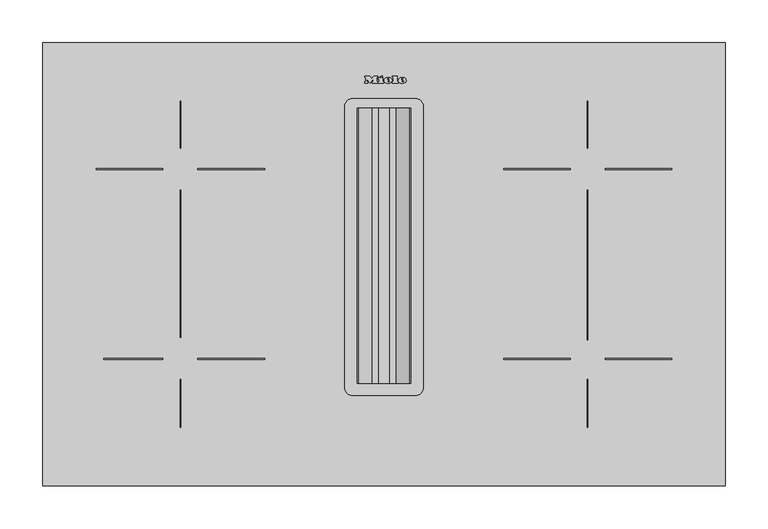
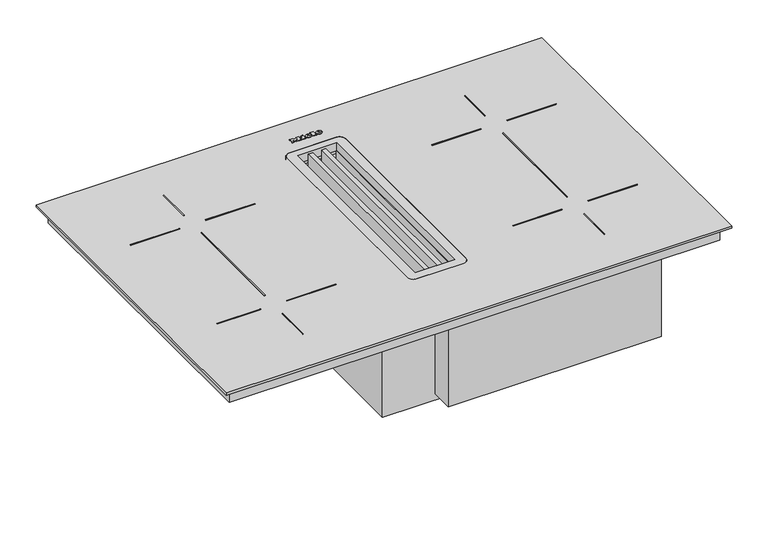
"""IFC4 building model written with IfcOpenShell, lengths in millimetres: proxy geometry, 12246270_GB_KMDA7473FL-A : 26747378_GB_12246270_KMDA7473FL-A."""

from ifc_helpers import new_model, si_unit, point, frame, frame_2d, origin, origin_with_axes, place, context, project, spatial, polyline, circle_curve, ellipse_curve, trimmed, segment, composite_curve, outline, extrude, faceted_brep, source, transform, mapped, element, save
from ifc_brep_helpers import plane_surface, cylinder_surface, revolved_surface, extruded_surface, advanced_brep


def specialty_equipment_909bfc48(model_context):
    return source(origin(), model_context, "Body", "SolidModel", [
        advanced_brep(
        [(20.8243124, 474.5406203, 5.0), (20.8243124, 475.3486203, 5.0), (26.1763124, 475.3486203, 5.0), (16.8643124, 475.3486203, 5.0), (19.0643124, 472.6446203, 5.0), (26.0403124, 474.5406203, 5.0), (23.6243124, 474.5406203, 5.0), (21.7203124, 473.6446203, 5.0), (20.8243124, 476.3726203, 5.0), (20.8243124, 477.2446203, 5.0), (22.1923124, 477.2446203, 5.0), (22.1923124, 476.3726203, 5.0), (20.8243124, 474.5406203, 4.0), (21.7203124, 473.6446203, 4.0), (23.6243124, 474.5406203, 4.0), (26.0403124, 474.5406203, 4.0), (19.0643124, 472.6446203, 4.0), (16.8643124, 475.3486203, 4.0), (26.1763124, 475.3486203, 4.0), (20.8243124, 475.3486203, 4.0), (20.8243124, 476.3726203, 4.0), (22.1923124, 476.3726203, 4.0), (22.1923124, 477.2446203, 4.0), (20.8243124, 477.2446203, 4.0)],
        [
            (0, 1),
            (1, 2),
            (2, 3, ellipse_curve(frame((21.5203124, 475.3486203, 5.0), z_axis=(0.0, 0.0, 1.0), x_axis=(-1.0, 0.0, 0.0)), 4.656, 3.848)),
            (3, 4, circle_curve(frame((19.960356, 475.6206203, 5.0), z_axis=(0.0, 0.0, 1.0), x_axis=(0.0, -1.0, 0.0)), 3.1079688)),
            (4, 5, circle_curve(frame((21.4271059, 477.7326203, 5.0), z_axis=(0.0, 0.0, 1.0), x_axis=(0.0, -1.0, 0.0)), 5.6098607)),
            (5, 6),
            (6, 7, circle_curve(frame((22.1113712, 475.2846203, 5.0), z_axis=(0.0, 0.0, -1.0), x_axis=(0.0, -1.0, 0.0)), 1.6859795)),
            (7, 0, circle_curve(frame((21.7203124, 474.5406203, 5.0), z_axis=(0.0, 0.0, -1.0), x_axis=(0.0, -1.0, 0.0)), 0.896)),
            (8, 9),
            (9, 10, circle_curve(frame((21.5083124, 477.2446203, 5.0), z_axis=(0.0, 0.0, -1.0), x_axis=(0.0, -1.0, 0.0)), 0.684)),
            (10, 11),
            (11, 8),
            (12, 13, circle_curve(frame((21.7203124, 474.5406203, 4.0), z_axis=(0.0, 0.0, 1.0), x_axis=(0.0, -1.0, 0.0)), 0.896)),
            (13, 14, circle_curve(frame((22.1113712, 475.2846203, 4.0), z_axis=(0.0, 0.0, 1.0), x_axis=(0.0, -1.0, 0.0)), 1.6859795)),
            (14, 15),
            (15, 16, circle_curve(frame((21.4271059, 477.7326203, 4.0), z_axis=(0.0, 0.0, -1.0), x_axis=(0.0, -1.0, 0.0)), 5.6098607)),
            (16, 17, circle_curve(frame((19.960356, 475.6206203, 4.0), z_axis=(0.0, 0.0, -1.0), x_axis=(0.0, -1.0, 0.0)), 3.1079688)),
            (17, 18, ellipse_curve(frame((21.5203124, 475.3486203, 4.0), z_axis=(0.0, 0.0, -1.0), x_axis=(-1.0, 0.0, 0.0)), 4.656, 3.848)),
            (18, 19),
            (19, 12),
            (20, 21),
            (21, 22),
            (22, 23, circle_curve(frame((21.5083124, 477.2446203, 4.0), z_axis=(0.0, 0.0, 1.0), x_axis=(0.0, -1.0, 0.0)), 0.684)),
            (23, 20),
            (0, 12),
            (19, 1),
            (18, 2),
            (5, 15),
            (14, 6),
            (17, 3),
            (13, 7),
            (16, 4),
            (8, 20),
            (23, 9),
            (22, 10),
            (21, 11),
        ],
        [
            plane_surface(frame((20.8243124, 475.3486203, 5.0), z_axis=(0.0, 0.0, 1.0), x_axis=(0.0, 1.0, 0.0))),
            plane_surface(frame((20.8243124, 475.3486203, 4.0), z_axis=(0.0, 0.0, -1.0), x_axis=(0.0, -1.0, 0.0))),
            plane_surface(frame((20.8243124, 474.5406203, 5.0), z_axis=(1.0, 0.0, 0.0), x_axis=(0.0, 0.0, -1.0))),
            plane_surface(frame((20.8243124, 475.3486203, 5.0), z_axis=(0.0, -1.0, 0.0), x_axis=(0.0, 0.0, -1.0))),
            plane_surface(frame((26.0403124, 474.5406203, 5.0), z_axis=(0.0, 1.0, 0.0), x_axis=(0.0, 0.0, -1.0))),
            extruded_surface(trimmed(ellipse_curve(frame((21.5203124, 475.3486203, 3.0), z_axis=(0.0, 0.0, 1.0), x_axis=(-1.0, 0.0, 0.0)), 4.656, 3.848), [point((26.1763124, 475.3486203, 3.0))], [point((16.8643124, 475.3486203, 3.0))], True, "CARTESIAN"), (0.0, 0.0, 1.0), 1.0),
            revolved_surface(polyline([(22.1113712, 473.5986408, 4.0), (22.1113712, 473.5986408, 5.0)]), (22.1113712, 475.2846203, 4.0), (0.0, 0.0, -1.0)),
            revolved_surface(polyline([(21.7203124, 473.6446203, 4.0), (21.7203124, 473.6446203, 5.0)]), (21.7203124, 474.5406203, 4.0), (0.0, 0.0, -1.0)),
            cylinder_surface(frame((19.960356, 475.6206203, 4.0), z_axis=(0.0, 0.0, 1.0), x_axis=(0.0, -1.0, 0.0)), 3.1079688),
            cylinder_surface(frame((21.4271059, 477.7326203, 4.0), z_axis=(0.0, 0.0, 1.0), x_axis=(0.0, -1.0, 0.0)), 5.6098607),
            plane_surface(frame((20.8243124, 476.3726203, 5.0), z_axis=(1.0, 0.0, 0.0), x_axis=(0.0, 0.0, -1.0))),
            revolved_surface(polyline([(21.5083124, 476.5606203, 4.0), (21.5083124, 476.5606203, 5.0)]), (21.5083124, 477.2446203, 4.0), (0.0, 0.0, -1.0)),
            plane_surface(frame((22.1923124, 477.2446203, 5.0), z_axis=(-1.0, 0.0, 0.0), x_axis=(0.0, 0.0, -1.0))),
            plane_surface(frame((22.1923124, 476.3726203, 5.0), z_axis=(0.0, 1.0, 0.0), x_axis=(0.0, 0.0, -1.0))),
        ],
        [
            (0, [[1, 2, 3, 4, 5, 6, 7, 8], [9, 10, 11, 12]]),
            (1, [[13, 14, 15, 16, 17, 18, 19, 20], [21, 22, 23, 24]]),
            (2, [[-1, 25, -20, 26]]),
            (3, [[-2, -26, -19, 27]]),
            (4, [[-6, 28, -15, 29]]),
            (5, [[-3, -27, -18, 30]]),
            (6, [[-7, -29, -14, 31]]),
            (7, [[-8, -31, -13, -25]]),
            (8, [[-4, -30, -17, 32]]),
            (9, [[-5, -32, -16, -28]]),
            (10, [[-9, 33, -24, 34]]),
            (11, [[-10, -34, -23, 35]]),
            (12, [[-11, -35, -22, 36]]),
            (13, [[-12, -36, -21, -33]]),
        ],
    ),
        advanced_brep(
        [(4.1283124, 474.5406203, 5.0), (4.1283124, 475.3486203, 5.0), (9.4803124, 475.3486203, 5.0), (0.1683124, 475.3486203, 5.0), (2.3683124, 472.6446203, 5.0), (9.3443124, 474.5406203, 5.0), (6.9283124, 474.5406203, 5.0), (5.0243124, 473.6446203, 5.0), (4.1283124, 476.3726203, 5.0), (4.1283124, 477.2446203, 5.0), (5.4963124, 477.2446203, 5.0), (5.4963124, 476.3726203, 5.0), (4.1283124, 474.5406203, 4.0), (5.0243124, 473.6446203, 4.0), (6.9283124, 474.5406203, 4.0), (9.3443124, 474.5406203, 4.0), (2.3683124, 472.6446203, 4.0), (0.1683124, 475.3486203, 4.0), (9.4803124, 475.3486203, 4.0), (4.1283124, 475.3486203, 4.0), (4.1283124, 476.3726203, 4.0), (5.4963124, 476.3726203, 4.0), (5.4963124, 477.2446203, 4.0), (4.1283124, 477.2446203, 4.0)],
        [
            (0, 1),
            (1, 2),
            (2, 3, ellipse_curve(frame((4.8243124, 475.3486203, 5.0), z_axis=(0.0, 0.0, 1.0), x_axis=(-1.0, 0.0, 0.0)), 4.656, 3.848)),
            (3, 4, circle_curve(frame((3.264356, 475.6206203, 5.0), z_axis=(0.0, 0.0, 1.0), x_axis=(0.0, -1.0, 0.0)), 3.1079688)),
            (4, 5, circle_curve(frame((4.7311059, 477.7326203, 5.0), z_axis=(0.0, 0.0, 1.0), x_axis=(0.0, -1.0, 0.0)), 5.6098607)),
            (5, 6),
            (6, 7, circle_curve(frame((5.4153712, 475.2846203, 5.0), z_axis=(0.0, 0.0, -1.0), x_axis=(0.0, -1.0, 0.0)), 1.6859795)),
            (7, 0, circle_curve(frame((5.0243124, 474.5406203, 5.0), z_axis=(0.0, 0.0, -1.0), x_axis=(0.0, -1.0, 0.0)), 0.896)),
            (8, 9),
            (9, 10, circle_curve(frame((4.8123124, 477.2446203, 5.0), z_axis=(0.0, 0.0, -1.0), x_axis=(0.0, -1.0, 0.0)), 0.684)),
            (10, 11),
            (11, 8),
            (12, 13, circle_curve(frame((5.0243124, 474.5406203, 4.0), z_axis=(0.0, 0.0, 1.0), x_axis=(0.0, -1.0, 0.0)), 0.896)),
            (13, 14, circle_curve(frame((5.4153712, 475.2846203, 4.0), z_axis=(0.0, 0.0, 1.0), x_axis=(0.0, -1.0, 0.0)), 1.6859795)),
            (14, 15),
            (15, 16, circle_curve(frame((4.7311059, 477.7326203, 4.0), z_axis=(0.0, 0.0, -1.0), x_axis=(0.0, -1.0, 0.0)), 5.6098607)),
            (16, 17, circle_curve(frame((3.264356, 475.6206203, 4.0), z_axis=(0.0, 0.0, -1.0), x_axis=(0.0, -1.0, 0.0)), 3.1079688)),
            (17, 18, ellipse_curve(frame((4.8243124, 475.3486203, 4.0), z_axis=(0.0, 0.0, -1.0), x_axis=(-1.0, 0.0, 0.0)), 4.656, 3.848)),
            (18, 19),
            (19, 12),
            (20, 21),
            (21, 22),
            (22, 23, circle_curve(frame((4.8123124, 477.2446203, 4.0), z_axis=(0.0, 0.0, 1.0), x_axis=(0.0, -1.0, 0.0)), 0.684)),
            (23, 20),
            (0, 12),
            (19, 1),
            (18, 2),
            (5, 15),
            (14, 6),
            (17, 3),
            (13, 7),
            (16, 4),
            (8, 20),
            (23, 9),
            (22, 10),
            (21, 11),
        ],
        [
            plane_surface(frame((4.1283124, 475.3486203, 5.0), z_axis=(0.0, 0.0, 1.0), x_axis=(0.0, 1.0, 0.0))),
            plane_surface(frame((4.1283124, 475.3486203, 4.0), z_axis=(0.0, 0.0, -1.0), x_axis=(0.0, -1.0, 0.0))),
            plane_surface(frame((4.1283124, 474.5406203, 5.0), z_axis=(1.0, 0.0, 0.0), x_axis=(0.0, 0.0, -1.0))),
            plane_surface(frame((4.1283124, 475.3486203, 5.0), z_axis=(0.0, -1.0, 0.0), x_axis=(0.0, 0.0, -1.0))),
            plane_surface(frame((9.3443124, 474.5406203, 5.0), z_axis=(0.0, 1.0, 0.0), x_axis=(0.0, 0.0, -1.0))),
            extruded_surface(trimmed(ellipse_curve(frame((4.8243124, 475.3486203, 3.0), z_axis=(0.0, 0.0, 1.0), x_axis=(-1.0, 0.0, 0.0)), 4.656, 3.848), [point((9.4803124, 475.3486203, 3.0))], [point((0.1683124, 475.3486203, 3.0))], True, "CARTESIAN"), (0.0, 0.0, 1.0), 1.0),
            revolved_surface(polyline([(5.4153712, 473.5986408, 4.0), (5.4153712, 473.5986408, 5.0)]), (5.4153712, 475.2846203, 4.0), (0.0, 0.0, -1.0)),
            revolved_surface(polyline([(5.0243124, 473.6446203, 4.0), (5.0243124, 473.6446203, 5.0)]), (5.0243124, 474.5406203, 4.0), (0.0, 0.0, -1.0)),
            cylinder_surface(frame((3.264356, 475.6206203, 4.0), z_axis=(0.0, 0.0, 1.0), x_axis=(0.0, -1.0, 0.0)), 3.1079688),
            cylinder_surface(frame((4.7311059, 477.7326203, 4.0), z_axis=(0.0, 0.0, 1.0), x_axis=(0.0, -1.0, 0.0)), 5.6098607),
            plane_surface(frame((4.1283124, 476.3726203, 5.0), z_axis=(1.0, 0.0, 0.0), x_axis=(0.0, 0.0, -1.0))),
            revolved_surface(polyline([(4.8123124, 476.5606203, 4.0), (4.8123124, 476.5606203, 5.0)]), (4.8123124, 477.2446203, 4.0), (0.0, 0.0, -1.0)),
            plane_surface(frame((5.4963124, 477.2446203, 5.0), z_axis=(-1.0, 0.0, 0.0), x_axis=(0.0, 0.0, -1.0))),
            plane_surface(frame((5.4963124, 476.3726203, 5.0), z_axis=(0.0, 1.0, 0.0), x_axis=(0.0, 0.0, -1.0))),
        ],
        [
            (0, [[1, 2, 3, 4, 5, 6, 7, 8], [9, 10, 11, 12]]),
            (1, [[13, 14, 15, 16, 17, 18, 19, 20], [21, 22, 23, 24]]),
            (2, [[-1, 25, -20, 26]]),
            (3, [[-2, -26, -19, 27]]),
            (4, [[-6, 28, -15, 29]]),
            (5, [[-3, -27, -18, 30]]),
            (6, [[-7, -29, -14, 31]]),
            (7, [[-8, -31, -13, -25]]),
            (8, [[-4, -30, -17, 32]]),
            (9, [[-5, -32, -16, -28]]),
            (10, [[-9, 33, -24, 34]]),
            (11, [[-10, -34, -23, 35]]),
            (12, [[-11, -35, -22, 36]]),
            (13, [[-12, -36, -21, -33]]),
        ],
    ),
        extrude(outline(polyline([(-4.6156876, 480.1726203), (-1.8956876, 481.4366203), (-1.2956876, 480.1406203), (-4.0076876, 478.8766203), (-4.6156876, 480.1726203)])), frame((0.0, 0.0, 4.0), z_axis=(0.0, 0.0, 1.0), x_axis=(1.0, 0.0, 0.0)), (0.0, 0.0, 1.0), 1.0),
        extrude(outline(polyline([(-6.5916876, 478.7006203), (-1.2076876, 478.7006203), (-1.2076876, 473.9886203), (-0.2796876, 473.9886203), (-0.2796876, 472.6446203), (-6.5916876, 472.6446203), (-6.5916876, 473.9886203), (-5.6396876, 473.9886203), (-5.6396876, 477.2686203), (-6.5916876, 477.2686203), (-6.5916876, 478.7006203)])), frame((0.0, 0.0, 4.0), z_axis=(0.0, 0.0, 1.0), x_axis=(1.0, 0.0, 0.0)), (0.0, 0.0, 1.0), 1.0),
        extrude(outline(polyline([(9.9283124, 479.3406203), (9.9283124, 480.6446203), (15.4323124, 480.6446203), (15.4323124, 473.9886203), (16.4163124, 473.9886203), (16.4163124, 472.6446203), (9.9283124, 472.6446203), (9.9283124, 473.9886203), (10.8883124, 473.9886203), (10.8883124, 479.3406203), (9.9283124, 479.3406203)])), frame((0.0, 0.0, 4.0), z_axis=(0.0, 0.0, 1.0), x_axis=(1.0, 0.0, 0.0)), (0.0, 0.0, 1.0), 1.0),
        extrude(outline(polyline([(-22.5356876, 479.3406203), (-22.5356876, 480.6446203), (-16.9596876, 480.6446203), (-14.6156876, 477.6446203), (-12.2796876, 480.6446203), (-7.4076876, 480.6446203), (-7.4076876, 479.3406203), (-8.4236876, 479.3406203), (-8.4236876, 473.9886203), (-7.4076876, 473.9886203), (-7.4076876, 472.6446203), (-13.7916876, 472.6446203), (-13.7916876, 473.9886203), (-12.8076876, 473.9886203), (-12.8076876, 477.4598426), (-16.3996876, 472.6446203), (-19.9756876, 477.3917451), (-19.9756876, 473.9886203), (-19.0156876, 473.9886203), (-19.0156876, 472.6446203), (-22.5356876, 472.6446203), (-22.5356876, 473.9886203), (-21.5676876, 473.9886203), (-21.5676876, 479.3406203), (-22.5356876, 479.3406203)])), frame((0.0, 0.0, 4.0), z_axis=(0.0, 0.0, 1.0), x_axis=(1.0, 0.0, 0.0)), (0.0, 0.0, 1.0), 1.0),
        faceted_brep([(-71.7186221, 460.5236466, -23.0), (-364.8972461, 460.5236466, -23.0), (-364.8972461, 59.427471, -23.0), (-71.7186221, 59.427471, -23.0), (-71.7186221, 59.427471, -49.8134964), (-364.8972461, 59.427471, -49.8134964), (-364.8972461, 460.5236466, -49.8134964), (-86.144412, 460.5236466, -49.8134964), (-86.144412, 352.5236466, -49.8134964), (-71.7186221, 352.5236466, -49.8134964), (-71.7186221, 460.5236466, -31.728133), (-86.144412, 460.5236466, -31.728133), (-71.7186221, 352.5236466, -31.728133), (-86.144412, 352.5236466, -31.728133)], [[[0, 1, 2, 3]], [[4, 5, 6, 7, 8, 9]], [[1, 0, 10, 11, 7, 6]], [[2, 1, 6, 5]], [[3, 2, 5, 4]], [[0, 3, 4, 9, 12, 10]], [[8, 13, 12, 9]], [[12, 13, 11, 10]], [[13, 8, 7, 11]]]),
        extrude(outline(polyline([(388.0, 508.0), (388.0, 12.0), (-388.0, 12.0), (-388.0, 508.0), (388.0, 508.0)]), holes=[composite_curve([segment(trimmed(circle_curve(frame_2d((36.5, 115.5)), 9.5), [point((36.5, 106.0))], [point((46.0, 115.5))], True, "CARTESIAN"), True, "CONTINUOUS"), segment(polyline([(46.0, 115.5), (46.0, 445.0)]), True, "CONTINUOUS"), segment(trimmed(circle_curve(frame_2d((36.5, 445.0)), 9.5), [point((46.0, 445.0))], [point((36.5, 454.5))], True, "CARTESIAN"), True, "CONTINUOUS"), segment(polyline([(36.5, 454.5), (-36.5395335, 454.5)]), True, "CONTINUOUS"), segment(trimmed(circle_curve(frame_2d((-36.5395335, 445.0395335)), 9.4604665), [point((-36.5395335, 454.5))], [point((-46.0, 445.0395335))], True, "CARTESIAN"), True, "CONTINUOUS"), segment(polyline([(-46.0, 445.0395335), (-46.0, 115.5)]), True, "CONTINUOUS"), segment(trimmed(circle_curve(frame_2d((-36.5, 115.5)), 9.5), [point((-46.0, 115.5))], [point((-36.5, 106.0))], True, "CARTESIAN"), True, "CONTINUOUS"), segment(polyline([(-36.5, 106.0), (36.5, 106.0)]), True, "CONTINUOUS")], self_intersect=False)]), frame((0.0, 0.0, -23.0), z_axis=(0.0, 0.0, 1.0), x_axis=(1.0, 0.0, 0.0)), (0.0, 0.0, 1.0), 23.0),
        extrude(outline(polyline([(400.0, 520.0), (400.0, 0.0), (-400.0, 0.0), (-400.0, 520.0), (400.0, 520.0)]), holes=[composite_curve([segment(polyline([(36.5, 454.5), (-36.5, 454.5)]), True, "CONTINUOUS"), segment(trimmed(circle_curve(frame_2d((-36.5, 445.0)), 9.5), [point((-36.5, 454.5))], [point((-46.0, 445.0))], True, "CARTESIAN"), True, "CONTINUOUS"), segment(polyline([(-46.0, 445.0), (-46.0, 115.5)]), True, "CONTINUOUS"), segment(trimmed(circle_curve(frame_2d((-36.5, 115.5)), 9.5), [point((-46.0, 115.5))], [point((-36.5, 106.0))], True, "CARTESIAN"), True, "CONTINUOUS"), segment(polyline([(-36.5, 106.0), (36.5, 106.0)]), True, "CONTINUOUS"), segment(trimmed(circle_curve(frame_2d((36.5, 115.5)), 9.5), [point((36.5, 106.0))], [point((46.0, 115.5))], True, "CARTESIAN"), True, "CONTINUOUS"), segment(polyline([(46.0, 115.5), (46.0, 445.0)]), True, "CONTINUOUS"), segment(trimmed(circle_curve(frame_2d((36.5, 445.0)), 9.5), [point((46.0, 445.0))], [point((36.5, 454.5))], True, "CARTESIAN"), True, "CONTINUOUS")], self_intersect=False)]), origin_with_axes(), (0.0, 0.0, 1.0), 4.0),
        extrude(outline(polyline([(-45.5823584, -70.2509053), (-35.5367274, -70.2509053), (-35.5367274, -77.4712026), (-36.7924312, -77.4712026), (-36.7924312, -71.5066091), (-39.7747279, -71.5066091), (-39.7747279, -77.1572766), (-41.0304318, -77.1572766), (-41.0304318, -71.5066091), (-44.3266545, -71.5066091), (-44.3266545, -77.6281655), (-45.5823584, -77.6281655), (-45.5823584, -70.2509053)])), frame((0.0, 405.5236466, 0.0), z_axis=(0.0, 1.0, 0.0), x_axis=(0.0, 0.0, 1.0)), (0.0, 0.0, 1.0), 1.0),
        extrude(outline(polyline([(-45.5823584, -79.5117214), (-35.5367274, -79.5117214), (-35.5367274, -80.7674252), (-44.3266545, -80.7674252), (-44.3266545, -85.7902407), (-45.5823584, -85.7902407), (-45.5823584, -79.5117214)])), frame((0.0, 405.5236466, 0.0), z_axis=(0.0, 1.0, 0.0), x_axis=(0.0, 0.0, 1.0)), (0.0, 0.0, 1.0), 1.0),
        extrude(outline(polyline([(-238.0, 347.0), (-238.0, 174.0), (-239.0, 174.0), (-239.0, 347.0), (-238.0, 347.0)])), frame((0.0, 0.0, 5.0), z_axis=(0.0, 0.0, 1.0), x_axis=(1.0, 0.0, 0.0)), (0.0, 0.0, 1.0), 1.0),
        extrude(outline(polyline([(238.0, 347.0), (239.0, 347.0), (239.0, 171.2818617), (238.0, 171.2818617), (238.0, 347.0)])), frame((0.0, 0.0, 5.0), z_axis=(0.0, 0.0, 1.0), x_axis=(1.0, 0.0, 0.0)), (0.0, 0.0, 1.0), 1.0),
        advanced_brep(
        [(-86.144412, 370.5236466, -40.8134964), (-86.144412, 380.5236466, -40.8134964), (-71.144412, 370.5236466, -40.8134964), (-81.144412, 380.5236466, -40.8134964), (-71.144412, 405.5236466, -40.8134964), (-81.144412, 405.5236466, -40.8134964)],
        [
            (0, 1, circle_curve(frame((-86.144412, 375.5236466, -40.8134964), z_axis=(-1.0, 0.0, 0.0), x_axis=(0.0, 1.0, 0.0)), 5.0)),
            (1, 0, circle_curve(frame((-86.144412, 375.5236466, -40.8134964), z_axis=(-1.0, 0.0, 0.0), x_axis=(0.0, 1.0, 0.0)), 5.0)),
            (0, 2),
            (2, 3, ellipse_curve(frame((-76.144412, 375.5236466, -40.8134964), z_axis=(-0.7071067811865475, -0.7071067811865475, 0.0), x_axis=(-0.7071067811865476, 0.7071067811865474, 0.0)), 7.0710678, 5.0)),
            (3, 1),
            (3, 2, ellipse_curve(frame((-76.144412, 375.5236466, -40.8134964), z_axis=(-0.7071067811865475, -0.7071067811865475, 0.0), x_axis=(-0.7071067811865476, 0.7071067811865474, 0.0)), 7.0710678, 5.0)),
            (4, 5, circle_curve(frame((-76.144412, 405.5236466, -40.8134964), z_axis=(0.0, 1.0, 0.0), x_axis=(-1.0, 0.0, 0.0)), 5.0)),
            (5, 4, circle_curve(frame((-76.144412, 405.5236466, -40.8134964), z_axis=(0.0, 1.0, 0.0), x_axis=(-1.0, 0.0, 0.0)), 5.0)),
            (2, 4),
            (5, 3),
        ],
        [
            plane_surface(frame((-86.144412, 375.5236466, 0.0), z_axis=(-1.0, 0.0, 0.0), x_axis=(0.0, 0.0, 1.0))),
            cylinder_surface(frame((-86.144412, 375.5236466, -40.8134964), z_axis=(-1.0, 0.0, 0.0), x_axis=(0.0, 1.0, 0.0)), 5.0),
            plane_surface(frame((-76.144412, 405.5236466, 0.0), z_axis=(0.0, 1.0, 0.0), x_axis=(0.0, 0.0, 1.0))),
            cylinder_surface(frame((-76.144412, 375.5236466, -40.8134964), z_axis=(0.0, -1.0, 0.0), x_axis=(-1.0, 0.0, 0.0)), 5.0),
        ],
        [
            (0, [[1, 2]]),
            (1, [[-1, 3, 4, 5]]),
            (1, [[-2, -5, 6, -3]]),
            (2, [[7, 8]]),
            (3, [[-4, 9, -8, 10]]),
            (3, [[-6, -10, -7, -9]]),
        ],
    ),
        extrude(outline(polyline([(-259.0, 372.0), (-259.0, 371.0), (-337.0, 371.0), (-337.0, 372.0), (-259.0, 372.0)])), frame((0.0, 0.0, 4.0), z_axis=(0.0, 0.0, 1.0), x_axis=(1.0, 0.0, 0.0)), (0.0, 0.0, 1.0), 1.0),
        extrude(outline(polyline([(-140.0, 372.0), (-140.0, 371.0), (-218.0, 371.0), (-218.0, 372.0), (-140.0, 372.0)])), frame((0.0, 0.0, 4.0), z_axis=(0.0, 0.0, 1.0), x_axis=(1.0, 0.0, 0.0)), (0.0, 0.0, 1.0), 1.0),
        extrude(outline(polyline([(-259.0, 148.7), (-328.4422621, 148.7), (-328.4422621, 149.7), (-259.0, 149.7), (-259.0, 148.7)])), frame((0.0, 0.0, 4.0), z_axis=(0.0, 0.0, 1.0), x_axis=(1.0, 0.0, 0.0)), (0.0, 0.0, 1.0), 1.0),
        extrude(outline(polyline([(-140.0, 149.7), (-140.0, 148.7), (-218.0, 148.7), (-218.0, 149.7), (-140.0, 149.7)])), frame((0.0, 0.0, 4.0), z_axis=(0.0, 0.0, 1.0), x_axis=(1.0, 0.0, 0.0)), (0.0, 0.0, 1.0), 1.0),
        extrude(outline(polyline([(259.0, 372.0), (337.0, 372.0), (337.0, 371.0), (259.0, 371.0), (259.0, 372.0)])), frame((0.0, 0.0, 4.0), z_axis=(0.0, 0.0, 1.0), x_axis=(1.0, 0.0, 0.0)), (0.0, 0.0, 1.0), 1.0),
        extrude(outline(polyline([(140.5, 372.0), (218.0, 372.0), (218.0, 371.0), (140.5, 371.0), (140.5, 372.0)])), frame((0.0, 0.0, 4.0), z_axis=(0.0, 0.0, 1.0), x_axis=(1.0, 0.0, 0.0)), (0.0, 0.0, 1.0), 1.0),
        extrude(outline(polyline([(-239.0, 68.5), (-239.0, 125.0), (-238.0, 125.0), (-238.0, 68.5), (-239.0, 68.5)])), frame((0.0, 0.0, 4.0), z_axis=(0.0, 0.0, 1.0), x_axis=(1.0, 0.0, 0.0)), (0.0, 0.0, 1.0), 1.0),
        extrude(outline(polyline([(239.0, 69.0), (238.0, 69.0), (238.0, 125.0), (239.0, 125.0), (239.0, 69.0)])), frame((0.0, 0.0, 4.0), z_axis=(0.0, 0.0, 1.0), x_axis=(1.0, 0.0, 0.0)), (0.0, 0.0, 1.0), 1.0),
        extrude(outline(polyline([(239.0, 451.5), (239.0, 396.0), (238.0, 396.0), (238.0, 451.5), (239.0, 451.5)])), frame((0.0, 0.0, 4.0), z_axis=(0.0, 0.0, 1.0), x_axis=(1.0, 0.0, 0.0)), (0.0, 0.0, 1.0), 1.0),
        extrude(outline(polyline([(-239.0, 451.5), (-238.0, 451.5), (-238.0, 396.0), (-239.0, 396.0), (-239.0, 451.5)])), frame((0.0, 0.0, 4.0), z_axis=(0.0, 0.0, 1.0), x_axis=(1.0, 0.0, 0.0)), (0.0, 0.0, 1.0), 1.0),
        extrude(outline(polyline([(259.0, 148.7), (259.0, 149.7), (337.0, 149.7), (337.0, 148.7), (259.0, 148.7)])), frame((0.0, 0.0, 4.0), z_axis=(0.0, 0.0, 1.0), x_axis=(1.0, 0.0, 0.0)), (0.0, 0.0, 1.0), 1.0),
        extrude(outline(polyline([(140.5, 148.7), (140.5, 149.7), (218.0, 149.7), (218.0, 148.7), (140.5, 148.7)])), frame((0.0, 0.0, 4.0), z_axis=(0.0, 0.0, 1.0), x_axis=(1.0, 0.0, 0.0)), (0.0, 0.0, 1.0), 1.0),
        extrude(outline(polyline([(14.0, 120.177901), (7.0, 120.177901), (7.0, 443.3010247), (14.0, 443.3010247), (14.0, 120.177901)])), frame((0.0, 0.0, -30.0), z_axis=(0.0, 0.0, 1.0), x_axis=(1.0, 0.0, 0.0)), (0.0, 0.0, 1.0), 30.0),
        extrude(outline(polyline([(-7.0, 120.177901), (-14.0, 120.177901), (-14.0, 443.3010247), (-7.0, 443.3010247), (-7.0, 120.177901)])), frame((0.0, 0.0, -30.0), z_axis=(0.0, 0.0, 1.0), x_axis=(1.0, 0.0, 0.0)), (0.0, 0.0, 1.0), 30.0),
        extrude(outline(polyline([(-150.3933796, 8.7812172), (-23.0, 31.0806576), (-9.6002538, 31.0806576), (-9.6002538, 30.0806576), (-22.9176, 30.0806576), (-149.3933796, 7.9334714), (-149.3933796, -10.4294884), (-23.1226136, -30.0513858), (-9.6002538, -30.0513858), (-9.6002538, -31.0802193), (-23.0, -31.0802193), (-150.3933796, -11.2930358), (-150.3933796, 8.7812172)])), frame((0.0, 120.177901, 0.0), z_axis=(0.0, 1.0, 0.0), x_axis=(0.0, 0.0, 1.0)), (0.0, 0.0, 1.0), 323.1231238),
        advanced_brep(
        [(65.0, 90.0, -196.0003671), (65.0, 90.0, -23.0), (-55.0, 90.0, -23.0), (-58.0, 90.0, -26.0), (-58.0, 90.0, -78.0), (-97.8585744, 90.0, -78.0), (-100.8585744, 90.0, -81.0), (-100.8585744, 90.0, -196.0003671), (65.0, 473.0, -196.0003671), (-100.8585744, 473.0, -196.0003671), (-100.8585744, 473.0, -81.0), (-97.8585744, 473.0, -78.0), (-58.0, 473.0, -78.0), (-58.0, 473.0, -26.0), (-55.0, 473.0, -23.0), (65.0, 473.0, -23.0), (-31.0802193, 443.3010247, -23.0), (31.0806576, 443.3010247, -23.0), (31.0806576, 120.177901, -23.0), (-31.0802193, 120.177901, -23.0), (31.0806576, 443.3010247, -150.3933796), (-31.0802193, 443.3010247, -150.3933796), (-31.0802193, 120.177901, -150.3933796), (31.0806576, 120.177901, -150.3933796)],
        [
            (0, 1),
            (1, 2),
            (2, 3, circle_curve(frame((-55.0, 90.0, -26.0), z_axis=(0.0, -1.0, 0.0), x_axis=(1.0, 0.0, 0.0)), 3.0)),
            (3, 4),
            (4, 5),
            (5, 6, circle_curve(frame((-97.8585744, 90.0, -81.0), z_axis=(0.0, -1.0, 0.0), x_axis=(1.0, 0.0, 0.0)), 3.0)),
            (6, 7),
            (7, 0),
            (8, 9),
            (9, 10),
            (10, 11, circle_curve(frame((-97.8585744, 473.0, -81.0), z_axis=(0.0, 1.0, 0.0), x_axis=(1.0, 0.0, 0.0)), 3.0)),
            (11, 12),
            (12, 13),
            (13, 14, circle_curve(frame((-55.0, 473.0, -26.0), z_axis=(0.0, 1.0, 0.0), x_axis=(1.0, 0.0, 0.0)), 3.0)),
            (14, 15),
            (15, 8),
            (0, 8),
            (15, 1),
            (14, 2),
            (16, 17),
            (17, 18),
            (18, 19),
            (19, 16),
            (3, 13),
            (12, 4),
            (11, 5),
            (6, 10),
            (9, 7),
            (20, 21),
            (21, 22),
            (22, 23),
            (23, 20),
            (20, 17),
            (16, 21),
            (19, 22),
            (18, 23),
        ],
        [
            plane_surface(frame((65.0, 90.0, -196.0003671), z_axis=(0.0, -1.0, 0.0), x_axis=(0.0, 0.0, 1.0))),
            plane_surface(frame((65.0, 473.0, -196.0003671), z_axis=(0.0, 1.0, 0.0), x_axis=(0.0, 0.0, -1.0))),
            plane_surface(frame((65.0, 90.0, -196.0003671), z_axis=(1.0, 0.0, 0.0), x_axis=(0.0, 1.0, 0.0))),
            plane_surface(frame((65.0, 90.0, -23.0), z_axis=(0.0, 0.0, 1.0), x_axis=(0.0, 1.0, 0.0))),
            plane_surface(frame((-58.0, 90.0, -26.0), z_axis=(-1.0, 0.0, 0.0), x_axis=(0.0, 1.0, 0.0))),
            plane_surface(frame((-58.0, 90.0, -78.0), z_axis=(0.0, 0.0, 1.0), x_axis=(0.0, 1.0, 0.0))),
            plane_surface(frame((-100.8585744, 90.0, -81.0), z_axis=(-1.0, 0.0, 0.0), x_axis=(0.0, 1.0, 0.0))),
            plane_surface(frame((-100.8585744, 90.0, -196.0003671), z_axis=(0.0, 0.0, -1.0), x_axis=(0.0, 1.0, 0.0))),
            cylinder_surface(frame((-55.0, 473.0, -26.0), z_axis=(0.0, -1.0, 0.0), x_axis=(1.0, 0.0, 0.0)), 3.0),
            cylinder_surface(frame((-97.8585744, 473.0, -81.0), z_axis=(0.0, -1.0, 0.0), x_axis=(1.0, 0.0, 0.0)), 3.0),
            plane_surface(frame((-31.0802193, 443.3010247, -150.3933796), z_axis=(0.0, 0.0, 1.0), x_axis=(1.0, 0.0, 0.0))),
            plane_surface(frame((31.0806576, 443.3010247, 0.0), z_axis=(0.0, -1.0, 0.0), x_axis=(0.0, 0.0, -1.0))),
            plane_surface(frame((-31.0802193, 443.3010247, 0.0), z_axis=(1.0, 0.0, 0.0), x_axis=(0.0, 0.0, -1.0))),
            plane_surface(frame((-31.0802193, 120.177901, 0.0), z_axis=(0.0, 1.0, 0.0), x_axis=(0.0, 0.0, -1.0))),
            plane_surface(frame((31.0806576, 120.177901, 0.0), z_axis=(-1.0, 0.0, 0.0), x_axis=(0.0, 0.0, -1.0))),
        ],
        [
            (0, [[1, 2, 3, 4, 5, 6, 7, 8]]),
            (1, [[9, 10, 11, 12, 13, 14, 15, 16]]),
            (2, [[-1, 17, -16, 18]]),
            (3, [[-2, -18, -15, 19], [20, 21, 22, 23]]),
            (4, [[-4, 24, -13, 25]]),
            (5, [[-5, -25, -12, 26]]),
            (6, [[-7, 27, -10, 28]]),
            (7, [[-8, -28, -9, -17]]),
            (8, [[-3, -19, -14, -24]]),
            (9, [[-6, -26, -11, -27]]),
            (10, [[29, 30, 31, 32]]),
            (11, [[-29, 33, -20, 34]]),
            (12, [[-30, -34, -23, 35]]),
            (13, [[-31, -35, -22, 36]]),
            (14, [[-32, -36, -21, -33]]),
        ],
    ),
        advanced_brep(
        [(-36.5, 106.0, 4.0), (36.5, 106.0, 4.0), (46.0, 115.5, 4.0), (46.0, 447.9999992, 4.0), (36.5, 457.4999992, 4.0), (-36.5, 457.4999992, 4.0), (-46.0, 447.9999992, 4.0), (-46.0, 115.5, 4.0), (31.0806576, 443.3010247, 4.0), (31.0806576, 120.177901, 4.0), (-31.0802193, 120.177901, 4.0), (-31.0802193, 443.3010247, 4.0), (-36.5, 106.0, -9.6002538), (-46.0, 115.5, -9.6002538), (-46.0, 447.9999992, -9.6002538), (-36.5, 457.4999992, -9.6002538), (36.5, 457.4999992, -9.6002538), (46.0, 447.9999992, -9.6002538), (46.0, 115.5, -9.6002538), (36.5, 106.0, -9.6002538), (31.0806576, 443.3010247, -9.6002538), (-31.0802193, 443.3010247, -9.6002538), (-31.0802193, 120.177901, -9.6002538), (31.0806576, 120.177901, -9.6002538), (31.0806576, 443.3010247, 0.0), (31.0806576, 120.177901, 0.0), (-31.0802193, 120.177901, 0.0), (-31.0802193, 443.3010247, 0.0)],
        [
            (0, 1),
            (1, 2, circle_curve(frame((36.5, 115.5, 4.0), z_axis=(0.0, 0.0, 1.0), x_axis=(1.0, 0.0, 0.0)), 9.5)),
            (2, 3),
            (3, 4, circle_curve(frame((36.5, 447.9999992, 4.0), z_axis=(0.0, 0.0, 1.0), x_axis=(1.0, 0.0, 0.0)), 9.5)),
            (4, 5),
            (5, 6, circle_curve(frame((-36.5, 447.9999992, 4.0), z_axis=(0.0, 0.0, 1.0), x_axis=(1.0, 0.0, 0.0)), 9.5)),
            (6, 7),
            (7, 0, circle_curve(frame((-36.5, 115.5, 4.0), z_axis=(0.0, 0.0, 1.0), x_axis=(1.0, 0.0, 0.0)), 9.5)),
            (8, 9),
            (9, 10),
            (10, 11),
            (11, 8),
            (12, 13, circle_curve(frame((-36.5, 115.5, -9.6002538), z_axis=(0.0, 0.0, -1.0), x_axis=(1.0, 0.0, 0.0)), 9.5)),
            (13, 14),
            (14, 15, circle_curve(frame((-36.5, 447.9999992, -9.6002538), z_axis=(0.0, 0.0, -1.0), x_axis=(1.0, 0.0, 0.0)), 9.5)),
            (15, 16),
            (16, 17, circle_curve(frame((36.5, 447.9999992, -9.6002538), z_axis=(0.0, 0.0, -1.0), x_axis=(1.0, 0.0, 0.0)), 9.5)),
            (17, 18),
            (18, 19, circle_curve(frame((36.5, 115.5, -9.6002538), z_axis=(0.0, 0.0, -1.0), x_axis=(1.0, 0.0, 0.0)), 9.5)),
            (19, 12),
            (20, 21),
            (21, 22),
            (22, 23),
            (23, 20),
            (0, 12),
            (19, 1),
            (18, 2),
            (17, 3),
            (16, 4),
            (15, 5),
            (14, 6),
            (13, 7),
            (8, 24),
            (24, 20),
            (23, 25),
            (25, 9),
            (22, 26),
            (26, 10),
            (21, 27),
            (27, 11),
        ],
        [
            plane_surface(frame((36.5, 106.0, 4.0), z_axis=(0.0, 0.0, 1.0), x_axis=(1.0, 0.0, 0.0))),
            plane_surface(frame((36.5, 106.0, -9.6002538), z_axis=(0.0, 0.0, -1.0), x_axis=(-1.0, 0.0, 0.0))),
            plane_surface(frame((-36.5, 106.0, 4.0), z_axis=(0.0, -1.0, 0.0), x_axis=(0.0, 0.0, -1.0))),
            cylinder_surface(frame((36.5, 115.5, -9.6002538), z_axis=(0.0, 0.0, 1.0), x_axis=(1.0, 0.0, 0.0)), 9.5),
            plane_surface(frame((46.0, 115.5, 4.0), z_axis=(1.0, 0.0, 0.0), x_axis=(0.0, 0.0, -1.0))),
            cylinder_surface(frame((36.5, 447.9999992, -9.6002538), z_axis=(0.0, 0.0, 1.0), x_axis=(1.0, 0.0, 0.0)), 9.5),
            plane_surface(frame((36.5, 457.4999992, 4.0), z_axis=(0.0, 1.0, 0.0), x_axis=(0.0, 0.0, -1.0))),
            cylinder_surface(frame((-36.5, 447.9999992, -9.6002538), z_axis=(0.0, 0.0, 1.0), x_axis=(1.0, 0.0, 0.0)), 9.5),
            plane_surface(frame((-46.0, 447.9999992, 4.0), z_axis=(-1.0, 0.0, 0.0), x_axis=(0.0, 0.0, -1.0))),
            cylinder_surface(frame((-36.5, 115.5, -9.6002538), z_axis=(0.0, 0.0, 1.0), x_axis=(1.0, 0.0, 0.0)), 9.5),
            plane_surface(frame((31.0806576, 443.3010247, 4.0), z_axis=(-1.0, 0.0, 0.0), x_axis=(0.0, 0.0, -1.0))),
            plane_surface(frame((31.0806576, 120.177901, 4.0), z_axis=(0.0, 1.0, 0.0), x_axis=(0.0, 0.0, -1.0))),
            plane_surface(frame((-31.0802193, 120.177901, 4.0), z_axis=(1.0, 0.0, 0.0), x_axis=(0.0, 0.0, -1.0))),
            plane_surface(frame((-31.0802193, 443.3010247, 4.0), z_axis=(0.0, -1.0, 0.0), x_axis=(0.0, 0.0, -1.0))),
        ],
        [
            (0, [[1, 2, 3, 4, 5, 6, 7, 8], [9, 10, 11, 12]]),
            (1, [[13, 14, 15, 16, 17, 18, 19, 20], [21, 22, 23, 24]]),
            (2, [[-1, 25, -20, 26]]),
            (3, [[-2, -26, -19, 27]]),
            (4, [[-3, -27, -18, 28]]),
            (5, [[-4, -28, -17, 29]]),
            (6, [[-5, -29, -16, 30]]),
            (7, [[-6, -30, -15, 31]]),
            (8, [[-7, -31, -14, 32]]),
            (9, [[-8, -32, -13, -25]]),
            (10, [[-9, 33, 34, -24, 35, 36]]),
            (11, [[-10, -36, -35, -23, 37, 38]]),
            (12, [[-11, -38, -37, -22, 39, 40]]),
            (13, [[-12, -40, -39, -21, -34, -33]]),
        ],
    ),
        extrude(outline(composite_curve([segment(trimmed(circle_curve(frame_2d((-110.1544508, 169.7588654)), 75.9996175), [point((-110.1544508, 93.7592479))], [point((-110.1544508, 245.7584828))], False, "CARTESIAN"), True, "CONTINUOUS"), segment(trimmed(circle_curve(frame_2d((-110.1544508, 169.7588654)), 75.9996175), [point((-110.1544508, 245.7584828))], [point((-110.1544508, 93.7592479))], False, "CARTESIAN"), True, "CONTINUOUS")], self_intersect=False), holes=[composite_curve([segment(trimmed(circle_curve(frame_2d((-110.1544508, 169.7588654)), 74.9996175), [point((-110.1544508, 94.7592479))], [point((-110.1544508, 244.7584828))], True, "CARTESIAN"), True, "CONTINUOUS"), segment(trimmed(circle_curve(frame_2d((-110.1544508, 169.7588654)), 74.9996175), [point((-110.1544508, 244.7584828))], [point((-110.1544508, 94.7592479))], True, "CARTESIAN"), True, "CONTINUOUS")], self_intersect=False)]), frame((0.0, 426.5236466, 0.0), z_axis=(0.0, 1.0, 0.0), x_axis=(0.0, 0.0, 1.0)), (0.0, 0.0, 1.0), 19.4763534),
        advanced_brep(
        [(240.0248541, 80.7444185, -23.0), (389.0, 174.8912467, -23.0), (389.0, 426.5236466, -23.0), (65.0, 426.5236466, -23.0), (65.0, 80.7444185, -23.0), (240.0248541, 80.7444185, -196.0003671), (65.0, 80.7444185, -196.0003671), (65.0, 426.5236466, -196.0003671), (260.0, 426.5236466, -196.0003671), (260.0, 378.7724959, -196.0003671), (389.0, 321.5236466, -196.0003671), (389.0, 174.8912467, -196.0003671), (389.0, 321.5236466, -158.2041546), (389.0, 426.5236466, -158.2041546), (260.0, 426.5236466, -158.2041546), (260.0, 378.7724959, -158.2041546)],
        [
            (0, 1, circle_curve(frame((248.2422198, 232.6818412, -23.0), z_axis=(0.0, 0.0, 1.0), x_axis=(1.0, 0.0, 0.0)), 152.1594739)),
            (1, 2),
            (2, 3),
            (3, 4),
            (4, 0),
            (5, 6),
            (6, 7),
            (7, 8),
            (8, 9),
            (9, 10, circle_curve(frame((261.4898072, 208.1659183, -196.0003671), z_axis=(0.0, 0.0, -1.0), x_axis=(1.0, 0.0, 0.0)), 170.6130823)),
            (10, 11),
            (11, 5, circle_curve(frame((248.2422198, 232.6818412, -196.0003671), z_axis=(0.0, 0.0, -1.0), x_axis=(1.0, 0.0, 0.0)), 152.1594739)),
            (0, 5),
            (11, 1),
            (10, 12),
            (12, 13),
            (13, 2),
            (13, 14),
            (14, 8),
            (7, 3),
            (6, 4),
            (12, 15, circle_curve(frame((261.4898072, 208.1659183, -158.2041546), z_axis=(0.0, 0.0, 1.0), x_axis=(1.0, 0.0, 0.0)), 170.6130823)),
            (15, 14),
            (15, 9),
        ],
        [
            plane_surface(frame((400.4016937, 232.6818412, -23.0), z_axis=(0.0, 0.0, 1.0), x_axis=(0.0, 1.0, 0.0))),
            plane_surface(frame((400.4016937, 232.6818412, -196.0003671), z_axis=(0.0, 0.0, -1.0), x_axis=(0.0, -1.0, 0.0))),
            cylinder_surface(frame((248.2422198, 232.6818412, -196.0003671), z_axis=(0.0, 0.0, 1.0), x_axis=(1.0, 0.0, 0.0)), 152.1594739),
            plane_surface(frame((389.0, 174.8912467, -23.0), z_axis=(1.0, 0.0, 0.0), x_axis=(0.0, 0.0, -1.0))),
            plane_surface(frame((389.0, 426.5236466, -23.0), z_axis=(0.0, 1.0, 0.0), x_axis=(0.0, 0.0, -1.0))),
            plane_surface(frame((65.0, 426.5236466, -23.0), z_axis=(-1.0, 0.0, 0.0), x_axis=(0.0, 0.0, -1.0))),
            plane_surface(frame((65.0, 80.7444185, -23.0), z_axis=(0.0, -1.0, 0.0), x_axis=(0.0, 0.0, -1.0))),
            plane_surface(frame((389.0, 426.5236466, -158.2041546), z_axis=(0.0, 0.0, -1.0), x_axis=(-1.0, 0.0, 0.0))),
            plane_surface(frame((260.0, 426.5236466, -158.2041546), z_axis=(1.0, 0.0, 0.0), x_axis=(0.0, 0.0, -1.0))),
            cylinder_surface(frame((261.4898072, 208.1659183, -272.677701), z_axis=(0.0, 0.0, -1.0), x_axis=(1.0, 0.0, 0.0)), 170.6130823),
        ],
        [
            (0, [[1, 2, 3, 4, 5]]),
            (1, [[6, 7, 8, 9, 10, 11, 12]]),
            (2, [[-1, 13, -12, 14]]),
            (3, [[-2, -14, -11, 15, 16, 17]]),
            (4, [[-3, -17, 18, 19, -8, 20]]),
            (5, [[-4, -20, -7, 21]]),
            (6, [[-5, -21, -6, -13]]),
            (7, [[22, 23, -18, -16]]),
            (8, [[-23, 24, -9, -19]]),
            (9, [[-22, -15, -10, -24]]),
        ],
    ),
        extrude(outline(composite_curve([segment(polyline([(319.5, 53.0), (-18.0, 53.0), (-18.0, 90.0), (234.4259817, 90.0)]), True, "CONTINUOUS"), segment(trimmed(circle_curve(frame_2d((249.106636, 239.3301036)), 150.0499965), [point((234.4259817, 90.0))], [point((319.5, 106.8167995))], True, "CARTESIAN"), True, "CONTINUOUS"), segment(polyline([(319.5, 106.8167995), (319.5, 53.0)]), True, "CONTINUOUS")], self_intersect=False)), frame((0.0, 0.0, -184.7506583), z_axis=(0.0, 0.0, 1.0), x_axis=(1.0, 0.0, 0.0)), (0.0, 0.0, 1.0), 144.8266632),
        extrude(outline(polyline([(-113.1544508, 175.3865979), (-103.1088198, 171.3766842), (-103.1088198, 170.3073739), (-113.1544508, 166.2999127), (-113.1544508, 167.6267404), (-110.0151911, 168.7745322), (-110.0151911, 172.9144309), (-113.1544508, 174.0622228), (-113.1544508, 175.3865979)]), holes=[polyline([(-108.7594872, 172.4533522), (-108.7594872, 169.2331584), (-106.2897728, 170.1406007), (-104.3645237, 170.8444816), (-106.0739487, 171.469881), (-108.7594872, 172.4533522)])]), frame((0.0, 446.0, 0.0), z_axis=(0.0, 1.0, 0.0), x_axis=(0.0, 0.0, 1.0)), (0.0, 0.0, 1.0), 1.0),
        extrude(outline(polyline([(-113.1544508, 164.9583697), (-103.1088198, 164.9583697), (-103.1088198, 163.7026658), (-111.8987469, 163.7026658), (-111.8987469, 158.6798503), (-113.1544508, 158.6798503), (-113.1544508, 164.9583697)])), frame((0.0, 446.0, 0.0), z_axis=(0.0, 1.0, 0.0), x_axis=(0.0, 0.0, 1.0)), (0.0, 0.0, 1.0), 1.0),
    ])


if __name__ == "__main__":
    model = new_model("IFC4")
    model_context = context("Model", 3, world=origin())
    ifc_project = project(units=[si_unit("LENGTHUNIT", "METRE", prefix="MILLI")], contexts=[model_context])
    site = spatial("IfcSite", under=ifc_project)
    building = spatial("IfcBuilding", under=site)
    placement = place(None, origin())
    specialty_equipment_shape = specialty_equipment_909bfc48(model_context)
    element("IfcBuildingElementProxy", 1, Name="12246270_GB_KMDA7473FL-A : 26747378_GB_12246270_KMDA7473FL-A", ObjectType="12246270_GB_KMDA7473FL-A : 26747378_GB_12246270_KMDA7473FL-A", at=placement, inside=building, context=model_context, shape_type="MappedRepresentation", body=[
        mapped(specialty_equipment_shape, transform((0.0, 0.0, 0.0), x_axis=(1.0, 0.0, 0.0), y_axis=(0.0, 1.0, 0.0), z_axis=(0.0, 0.0, 1.0))),
    ])
    save(model, "model.ifc")
